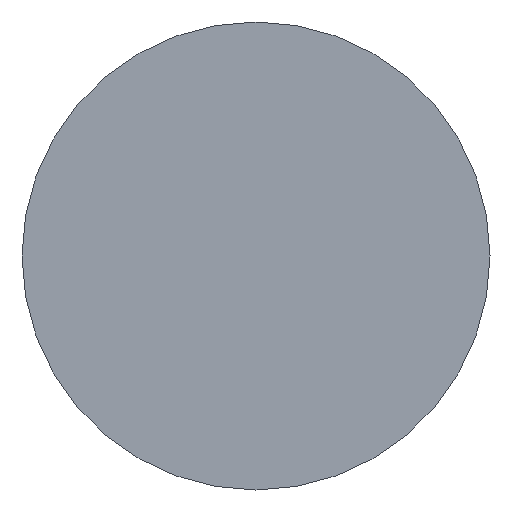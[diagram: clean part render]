
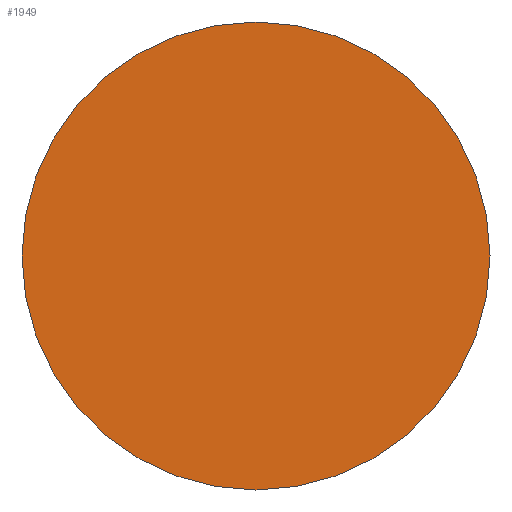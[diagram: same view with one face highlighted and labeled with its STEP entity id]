
A CAD part, front view. The second image highlights one B-rep face of the part: STEP entity #1949.
In plain terms, the highlighted planar face has unit normal (0, -1, 0).
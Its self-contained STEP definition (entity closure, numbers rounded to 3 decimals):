
#192 = DIRECTION ( 'NONE',  ( 0., 0., 1. ) ) ;
#235 = AXIS2_PLACEMENT_3D ( 'NONE', #1363, #1765, #3096 ) ;
#486 = CARTESIAN_POINT ( 'NONE',  ( 0., -4., 0. ) ) ;
#684 = EDGE_CURVE ( 'NONE', #2045, #2626, #1306, .T. ) ;
#1209 = CARTESIAN_POINT ( 'NONE',  ( 0., -4., 220. ) ) ;
#1262 = DIRECTION ( 'NONE',  ( 1., 0., 0. ) ) ;
#1306 = CIRCLE ( 'NONE', #235, 220. ) ;
#1343 = EDGE_CURVE ( 'NONE', #2626, #2045, #1877, .T. ) ;
#1363 = CARTESIAN_POINT ( 'NONE',  ( 0., -4., 0. ) ) ;
#1607 = CARTESIAN_POINT ( 'NONE',  ( 0., -4., 0. ) ) ;
#1765 = DIRECTION ( 'NONE',  ( 0., 1., 0. ) ) ;
#1805 = AXIS2_PLACEMENT_3D ( 'NONE', #486, #2633, #192 ) ;
#1877 = CIRCLE ( 'NONE', #1805, 220. ) ;
#1949 = ADVANCED_FACE ( 'NONE', ( #2594 ), #2258, .F. ) ;
#1959 = AXIS2_PLACEMENT_3D ( 'NONE', #1607, #4360, #1262 ) ;
#2045 = VERTEX_POINT ( 'NONE', #1209 ) ;
#2258 = PLANE ( 'NONE',  #1959 ) ;
#2594 = FACE_OUTER_BOUND ( 'NONE', #2735, .T. ) ;
#2626 = VERTEX_POINT ( 'NONE', #4203 ) ;
#2633 = DIRECTION ( 'NONE',  ( 0., 1., 0. ) ) ;
#2735 = EDGE_LOOP ( 'NONE', ( #2905, #3569 ) ) ;
#2905 = ORIENTED_EDGE ( 'NONE', *, *, #1343, .F. ) ;
#3096 = DIRECTION ( 'NONE',  ( 0., 0., 1. ) ) ;
#3569 = ORIENTED_EDGE ( 'NONE', *, *, #684, .F. ) ;
#4203 = CARTESIAN_POINT ( 'NONE',  ( 0., -4., -220. ) ) ;
#4360 = DIRECTION ( 'NONE',  ( 0., 1., 0. ) ) ;
